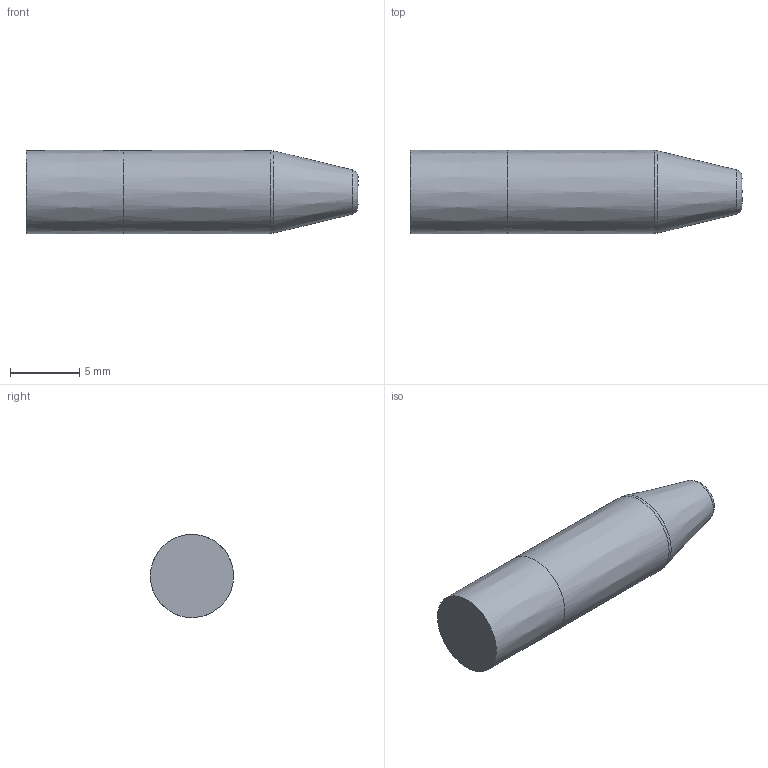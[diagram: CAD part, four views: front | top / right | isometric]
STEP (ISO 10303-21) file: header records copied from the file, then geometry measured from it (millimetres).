
FILE_DESCRIPTION ((), '1');
FILE_NAME ('C:\Users\tprototype\Desktop\TeslaGen Project\TeslaGen-v1 CAD Package\CNC Parts\Spark Gap\Tungsten Electrodes\short_Electrode.stp', '2016-11-22T17:50:22', ('Unknown'), ('Unknown'), 'HarmonyWare STEP v1.7.11', 'HarmonyWare Translators', '');
FILE_SCHEMA (('CONFIG_CONTROL_DESIGN'));
Length unit declared in the file: millimetre
Products named in the file (1): product-name: product-name: product-name: product-name
Bounding box: 23.95 x 6 x 6 mm (x, y, z)
Volume: 604.9 mm3; surface area: 459.6 mm2
Topology: 1 solids, 1 shells, 7 faces, 11 edges, 6 vertices
Faces by surface type: bspline 7
Entity records: 384 total; most frequent: CARTESIAN_POINT 218, ORIENTED_EDGE 22, EDGE_CURVE 11, PERSON 8, ORGANIZATION 8, PERSON_AND_ORGANIZATION 8, EDGE_LOOP 7, FACE_OUTER_BOUND 7
